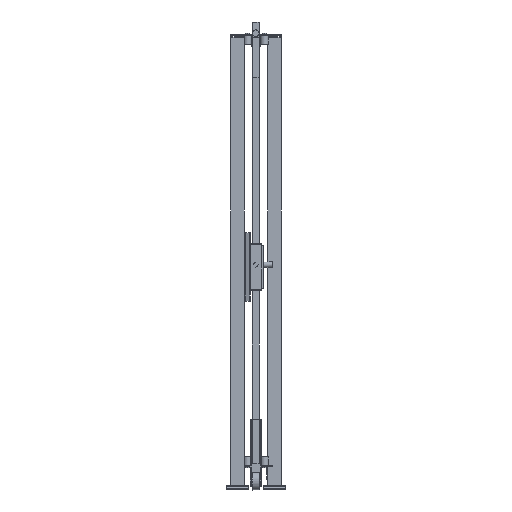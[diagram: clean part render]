
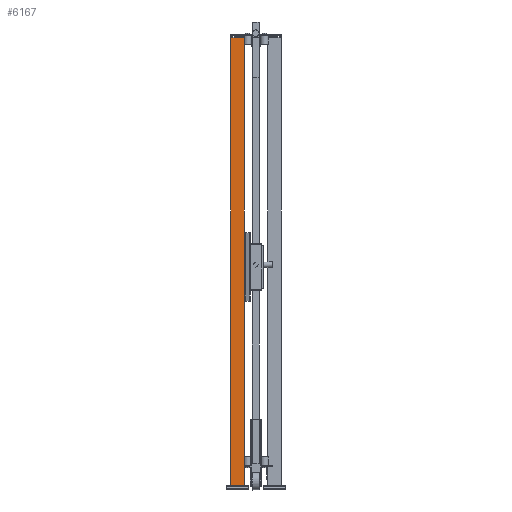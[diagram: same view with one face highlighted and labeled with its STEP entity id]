
A CAD part, left-side view. The second image highlights one B-rep face of the part: STEP entity #6167.
In plain terms, the highlighted planar face has unit normal (-1, 0, 0) as drawn and (0, 1, 0) by its records, which use the part's own axes.
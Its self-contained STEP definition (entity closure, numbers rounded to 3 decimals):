
#593=FACE_OUTER_BOUND('',#1089,.T.);
#1089=EDGE_LOOP('',(#3845,#3846,#3847,#3848));
#1653=VERTEX_POINT('',#13279);
#1654=VERTEX_POINT('',#13281);
#1656=VERTEX_POINT('',#13287);
#1659=VERTEX_POINT('',#13292);
#2483=EDGE_CURVE('',#1653,#1654,#7284,.T.);
#2489=EDGE_CURVE('',#1659,#1656,#7290,.T.);
#2492=EDGE_CURVE('',#1654,#1659,#7293,.T.);
#2493=EDGE_CURVE('',#1653,#1656,#7294,.T.);
#3845=ORIENTED_EDGE('',*,*,#2493,.T.);
#3846=ORIENTED_EDGE('',*,*,#2489,.F.);
#3847=ORIENTED_EDGE('',*,*,#2492,.F.);
#3848=ORIENTED_EDGE('',*,*,#2483,.F.);
#5741=PLANE('',#9269);
#6167=ADVANCED_FACE('',(#593),#5741,.F.);
#7284=LINE('',#13282,#8373);
#7290=LINE('',#13294,#8379);
#7293=LINE('',#13299,#8382);
#7294=LINE('',#13301,#8383);
#8373=VECTOR('',#10427,1.);
#8379=VECTOR('',#10435,1.);
#8382=VECTOR('',#10442,1.);
#8383=VECTOR('',#10445,1.);
#9269=AXIS2_PLACEMENT_3D('',#13300,#10443,#10444);
#10427=DIRECTION('',(-1.,0.,0.));
#10435=DIRECTION('',(1.,0.,0.));
#10442=DIRECTION('',(0.,0.,-1.));
#10443=DIRECTION('center_axis',(0.,-1.,0.));
#10444=DIRECTION('ref_axis',(0.,0.,-1.));
#10445=DIRECTION('',(0.,0.,-1.));
#13279=CARTESIAN_POINT('',(30.,30.,2020.));
#13281=CARTESIAN_POINT('',(-30.,30.,2020.));
#13282=CARTESIAN_POINT('',(0.,30.,2020.));
#13287=CARTESIAN_POINT('',(30.,30.,20.));
#13292=CARTESIAN_POINT('',(-30.,30.,20.));
#13294=CARTESIAN_POINT('',(0.,30.,20.));
#13299=CARTESIAN_POINT('',(-30.,30.,1020.));
#13300=CARTESIAN_POINT('Origin',(0.,30.,
1020.));
#13301=CARTESIAN_POINT('',(30.,30.,1020.));
